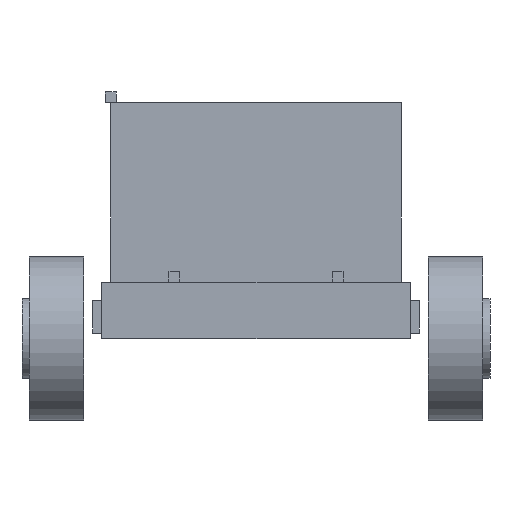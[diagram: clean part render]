
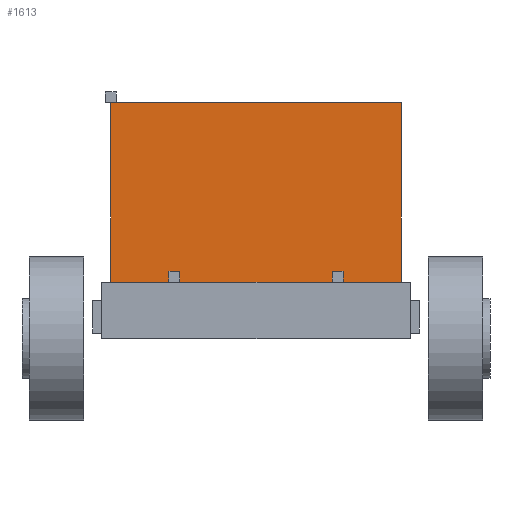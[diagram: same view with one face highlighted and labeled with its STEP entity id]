
A CAD part, left-side view. The second image highlights one B-rep face of the part: STEP entity #1613.
In plain terms, the highlighted planar face has unit normal (-1, 0, 0).
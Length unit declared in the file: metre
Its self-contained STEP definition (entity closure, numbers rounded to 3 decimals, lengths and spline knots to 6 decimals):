
#61=PLANE('',#1760);
#165=FACE_OUTER_BOUND('',#277,.T.);
#277=EDGE_LOOP('',(#1215,#1216,#1217,#1218));
#395=LINE('',#2384,#597);
#409=LINE('',#2413,#611);
#410=LINE('',#2415,#612);
#411=LINE('',#2416,#613);
#597=VECTOR('',#1918,0.01);
#611=VECTOR('',#1944,0.01);
#612=VECTOR('',#1945,0.01);
#613=VECTOR('',#1946,0.01);
#815=VERTEX_POINT('',#2381);
#816=VERTEX_POINT('',#2383);
#825=VERTEX_POINT('',#2412);
#826=VERTEX_POINT('',#2414);
#963=EDGE_CURVE('',#815,#816,#395,.T.);
#977=EDGE_CURVE('',#815,#825,#409,.T.);
#978=EDGE_CURVE('',#826,#825,#410,.T.);
#979=EDGE_CURVE('',#816,#826,#411,.T.);
#1215=ORIENTED_EDGE('',*,*,#963,.F.);
#1216=ORIENTED_EDGE('',*,*,#977,.T.);
#1217=ORIENTED_EDGE('',*,*,#978,.F.);
#1218=ORIENTED_EDGE('',*,*,#979,.F.);
#1613=ADVANCED_FACE('',(#165),#61,.T.);
#1760=AXIS2_PLACEMENT_3D('',#2411,#1942,#1943);
#1918=DIRECTION('',(0.,1.,0.));
#1942=DIRECTION('center_axis',(-1.,0.,0.));
#1943=DIRECTION('ref_axis',(0.,-1.,0.));
#1944=DIRECTION('',(0.,0.,1.));
#1945=DIRECTION('',(0.,-1.,0.));
#1946=DIRECTION('',(0.,0.,1.));
#2381=CARTESIAN_POINT('',(-0.15,-0.8,0.7));
#2383=CARTESIAN_POINT('',(-0.15,0.8,0.7));
#2384=CARTESIAN_POINT('',(-0.15,0.4,0.7));
#2411=CARTESIAN_POINT('Origin',(-0.15,0.8,0.7));
#2412=CARTESIAN_POINT('',(-0.15,-0.8,1.75));
#2413=CARTESIAN_POINT('',(-0.15,-0.8,0.7));
#2414=CARTESIAN_POINT('',(-0.15,0.8,1.75));
#2415=CARTESIAN_POINT('',(-0.15,0.8,1.75));
#2416=CARTESIAN_POINT('',(-0.15,0.8,0.7));
